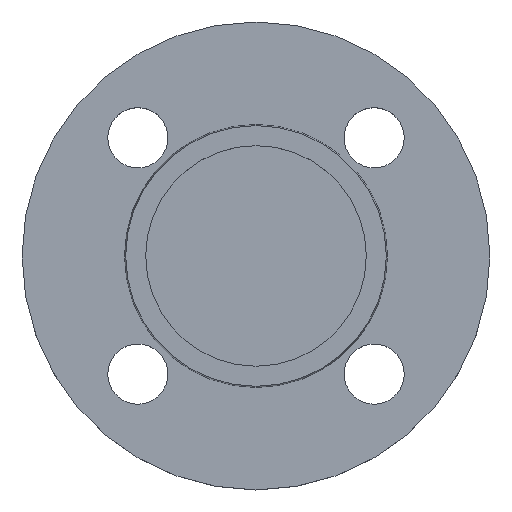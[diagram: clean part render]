
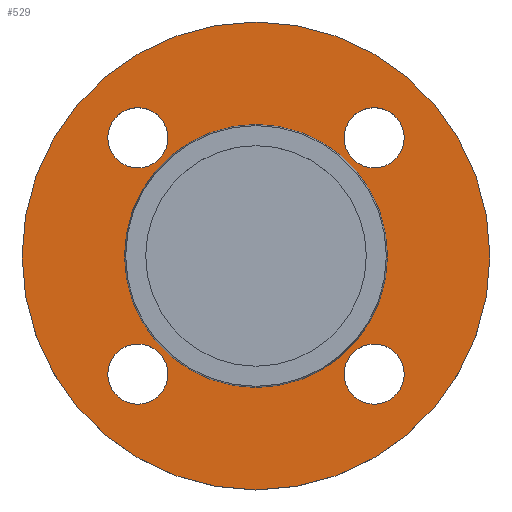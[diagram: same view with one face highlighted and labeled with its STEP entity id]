
A CAD part, top view. The second image highlights one B-rep face of the part: STEP entity #529.
In plain terms, the highlighted planar face has unit normal (0, 0, 1).
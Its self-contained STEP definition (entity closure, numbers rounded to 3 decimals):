
#1 = DIRECTION ( 'NONE',  ( 1., 0., 0. ) ) ;
#2 = CARTESIAN_POINT ( 'NONE',  ( 70., 0., -2. ) ) ;
#3 = CARTESIAN_POINT ( 'NONE',  ( -26.355, -35.355, -2. ) ) ;
#7 = AXIS2_PLACEMENT_3D ( 'NONE', #360, #580, #81 ) ;
#14 = EDGE_CURVE ( 'NONE', #154, #323, #329, .T. ) ;
#19 = EDGE_LOOP ( 'NONE', ( #657, #253 ) ) ;
#20 = EDGE_CURVE ( 'NONE', #147, #102, #231, .T. ) ;
#31 = FACE_OUTER_BOUND ( 'NONE', #631, .T. ) ;
#36 = CARTESIAN_POINT ( 'NONE',  ( 26.355, -35.355, -2. ) ) ;
#44 = EDGE_LOOP ( 'NONE', ( #559, #300 ) ) ;
#55 = DIRECTION ( 'NONE',  ( -1., 0., 0. ) ) ;
#58 = VERTEX_POINT ( 'NONE', #659 ) ;
#75 = CIRCLE ( 'NONE', #486, 9. ) ;
#77 = ORIENTED_EDGE ( 'NONE', *, *, #115, .T. ) ;
#78 = DIRECTION ( 'NONE',  ( 0., 0., -1. ) ) ;
#81 = DIRECTION ( 'NONE',  ( 1., 0., 0. ) ) ;
#88 = AXIS2_PLACEMENT_3D ( 'NONE', #664, #166, #386 ) ;
#90 = FACE_BOUND ( 'NONE', #19, .T. ) ;
#94 = VERTEX_POINT ( 'NONE', #322 ) ;
#98 = ORIENTED_EDGE ( 'NONE', *, *, #235, .T. ) ;
#101 = DIRECTION ( 'NONE',  ( 1., 0., 0. ) ) ;
#102 = VERTEX_POINT ( 'NONE', #538 ) ;
#103 = VERTEX_POINT ( 'NONE', #36 ) ;
#106 = DIRECTION ( 'NONE',  ( 0., 0., -1. ) ) ;
#112 = DIRECTION ( 'NONE',  ( 0., 0., -1. ) ) ;
#115 = EDGE_CURVE ( 'NONE', #94, #103, #567, .T. ) ;
#120 = CARTESIAN_POINT ( 'NONE',  ( 0., 0., -2. ) ) ;
#125 = CARTESIAN_POINT ( 'NONE',  ( -35.355, 35.355, -2. ) ) ;
#146 = CARTESIAN_POINT ( 'NONE',  ( 39.353, 0., -2. ) ) ;
#147 = VERTEX_POINT ( 'NONE', #176 ) ;
#154 = VERTEX_POINT ( 'NONE', #3 ) ;
#155 = ORIENTED_EDGE ( 'NONE', *, *, #718, .T. ) ;
#161 = CIRCLE ( 'NONE', #563, 39.353 ) ;
#166 = DIRECTION ( 'NONE',  ( 0., 0., -1. ) ) ;
#176 = CARTESIAN_POINT ( 'NONE',  ( -26.355, 35.355, -2. ) ) ;
#179 = CARTESIAN_POINT ( 'NONE',  ( -39.353, 0., -2. ) ) ;
#182 = AXIS2_PLACEMENT_3D ( 'NONE', #609, #112, #336 ) ;
#188 = CARTESIAN_POINT ( 'NONE',  ( 26.355, 35.355, -2. ) ) ;
#197 = AXIS2_PLACEMENT_3D ( 'NONE', #482, #701, #203 ) ;
#198 = CIRCLE ( 'NONE', #289, 9. ) ;
#199 = DIRECTION ( 'NONE',  ( -1., 0., 0. ) ) ;
#203 = DIRECTION ( 'NONE',  ( 1., 0., 0. ) ) ;
#207 = ORIENTED_EDGE ( 'NONE', *, *, #371, .T. ) ;
#212 = CARTESIAN_POINT ( 'NONE',  ( 35.355, -35.355, -2. ) ) ;
#231 = CIRCLE ( 'NONE', #544, 9. ) ;
#235 = EDGE_CURVE ( 'NONE', #536, #58, #401, .T. ) ;
#236 = EDGE_CURVE ( 'NONE', #284, #337, #496, .T. ) ;
#244 = CIRCLE ( 'NONE', #647, 70. ) ;
#253 = ORIENTED_EDGE ( 'NONE', *, *, #594, .T. ) ;
#259 = AXIS2_PLACEMENT_3D ( 'NONE', #212, #432, #653 ) ;
#263 = PLANE ( 'NONE',  #197 ) ;
#270 = EDGE_CURVE ( 'NONE', #337, #284, #244, .T. ) ;
#284 = VERTEX_POINT ( 'NONE', #674 ) ;
#289 = AXIS2_PLACEMENT_3D ( 'NONE', #577, #78, #307 ) ;
#292 = CARTESIAN_POINT ( 'NONE',  ( -35.355, 35.355, -2. ) ) ;
#300 = ORIENTED_EDGE ( 'NONE', *, *, #672, .T. ) ;
#305 = AXIS2_PLACEMENT_3D ( 'NONE', #399, #106, #333 ) ;
#307 = DIRECTION ( 'NONE',  ( 1., 0., 0. ) ) ;
#318 = FACE_BOUND ( 'NONE', #652, .T. ) ;
#322 = CARTESIAN_POINT ( 'NONE',  ( 44.355, -35.355, -2. ) ) ;
#323 = VERTEX_POINT ( 'NONE', #510 ) ;
#329 = CIRCLE ( 'NONE', #640, 9. ) ;
#333 = DIRECTION ( 'NONE',  ( 1., 0., 0. ) ) ;
#336 = DIRECTION ( 'NONE',  ( -1., 0., 0. ) ) ;
#337 = VERTEX_POINT ( 'NONE', #2 ) ;
#340 = CARTESIAN_POINT ( 'NONE',  ( 0., 0., -2. ) ) ;
#343 = DIRECTION ( 'NONE',  ( 0., 0., -1. ) ) ;
#348 = DIRECTION ( 'NONE',  ( 0., 0., -1. ) ) ;
#360 = CARTESIAN_POINT ( 'NONE',  ( 35.355, 35.355, -2. ) ) ;
#363 = VERTEX_POINT ( 'NONE', #179 ) ;
#366 = FACE_BOUND ( 'NONE', #706, .T. ) ;
#371 = EDGE_CURVE ( 'NONE', #103, #94, #606, .T. ) ;
#375 = CARTESIAN_POINT ( 'NONE',  ( -35.355, -35.355, -2. ) ) ;
#385 = AXIS2_PLACEMENT_3D ( 'NONE', #120, #343, #564 ) ;
#386 = DIRECTION ( 'NONE',  ( 1., 0., 0. ) ) ;
#399 = CARTESIAN_POINT ( 'NONE',  ( 35.355, -35.355, -2. ) ) ;
#401 = CIRCLE ( 'NONE', #88, 9. ) ;
#421 = ORIENTED_EDGE ( 'NONE', *, *, #236, .F. ) ;
#432 = DIRECTION ( 'NONE',  ( 0., 0., -1. ) ) ;
#434 = ORIENTED_EDGE ( 'NONE', *, *, #551, .T. ) ;
#469 = ORIENTED_EDGE ( 'NONE', *, *, #589, .T. ) ;
#475 = CIRCLE ( 'NONE', #7, 9. ) ;
#476 = CARTESIAN_POINT ( 'NONE',  ( 0., 0., -2. ) ) ;
#482 = CARTESIAN_POINT ( 'NONE',  ( 39.353, 0., -2. ) ) ;
#486 = AXIS2_PLACEMENT_3D ( 'NONE', #292, #509, #1 ) ;
#496 = CIRCLE ( 'NONE', #182, 70. ) ;
#508 = VERTEX_POINT ( 'NONE', #146 ) ;
#509 = DIRECTION ( 'NONE',  ( 0., 0., -1. ) ) ;
#510 = CARTESIAN_POINT ( 'NONE',  ( -44.355, -35.355, -2. ) ) ;
#519 = EDGE_LOOP ( 'NONE', ( #469, #155 ) ) ;
#529 = ADVANCED_FACE ( 'NONE', ( #366, #587, #90, #318, #533, #31 ), #263, .T. ) ;
#533 = FACE_BOUND ( 'NONE', #519, .T. ) ;
#536 = VERTEX_POINT ( 'NONE', #188 ) ;
#538 = CARTESIAN_POINT ( 'NONE',  ( -44.355, 35.355, -2. ) ) ;
#544 = AXIS2_PLACEMENT_3D ( 'NONE', #125, #348, #568 ) ;
#551 = EDGE_CURVE ( 'NONE', #58, #536, #475, .T. ) ;
#559 = ORIENTED_EDGE ( 'NONE', *, *, #14, .T. ) ;
#560 = DIRECTION ( 'NONE',  ( 0., 0., -1. ) ) ;
#563 = AXIS2_PLACEMENT_3D ( 'NONE', #476, #697, #199 ) ;
#564 = DIRECTION ( 'NONE',  ( -1., 0., 0. ) ) ;
#567 = CIRCLE ( 'NONE', #259, 9. ) ;
#568 = DIRECTION ( 'NONE',  ( 1., 0., 0. ) ) ;
#577 = CARTESIAN_POINT ( 'NONE',  ( -35.355, -35.355, -2. ) ) ;
#580 = DIRECTION ( 'NONE',  ( 0., 0., -1. ) ) ;
#587 = FACE_BOUND ( 'NONE', #44, .T. ) ;
#589 = EDGE_CURVE ( 'NONE', #363, #508, #704, .T. ) ;
#591 = ORIENTED_EDGE ( 'NONE', *, *, #270, .F. ) ;
#594 = EDGE_CURVE ( 'NONE', #102, #147, #75, .T. ) ;
#597 = DIRECTION ( 'NONE',  ( 0., 0., -1. ) ) ;
#606 = CIRCLE ( 'NONE', #305, 9. ) ;
#609 = CARTESIAN_POINT ( 'NONE',  ( 0., 0., -2. ) ) ;
#631 = EDGE_LOOP ( 'NONE', ( #591, #421 ) ) ;
#640 = AXIS2_PLACEMENT_3D ( 'NONE', #375, #597, #101 ) ;
#647 = AXIS2_PLACEMENT_3D ( 'NONE', #340, #560, #55 ) ;
#652 = EDGE_LOOP ( 'NONE', ( #434, #98 ) ) ;
#653 = DIRECTION ( 'NONE',  ( 1., 0., 0. ) ) ;
#657 = ORIENTED_EDGE ( 'NONE', *, *, #20, .T. ) ;
#659 = CARTESIAN_POINT ( 'NONE',  ( 44.355, 35.355, -2. ) ) ;
#664 = CARTESIAN_POINT ( 'NONE',  ( 35.355, 35.355, -2. ) ) ;
#672 = EDGE_CURVE ( 'NONE', #323, #154, #198, .T. ) ;
#674 = CARTESIAN_POINT ( 'NONE',  ( -70., 0., -2. ) ) ;
#697 = DIRECTION ( 'NONE',  ( 0., 0., -1. ) ) ;
#701 = DIRECTION ( 'NONE',  ( 0., 0., 1. ) ) ;
#704 = CIRCLE ( 'NONE', #385, 39.353 ) ;
#706 = EDGE_LOOP ( 'NONE', ( #77, #207 ) ) ;
#718 = EDGE_CURVE ( 'NONE', #508, #363, #161, .T. ) ;
